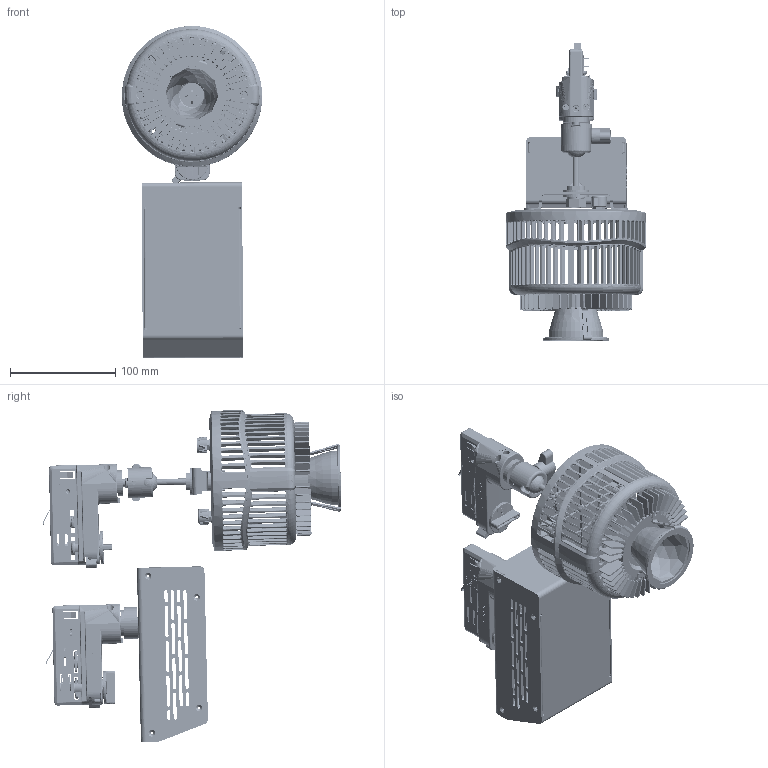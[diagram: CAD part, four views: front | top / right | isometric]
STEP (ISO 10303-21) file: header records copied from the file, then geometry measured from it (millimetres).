
FILE_DESCRIPTION (( 'STEP AP214' ), '1' );
FILE_NAME ('W500N-TOX-PS.STEP', '2024-02-01T23:00:08', ( '' ), ( '' ), 'SwSTEP 2.0', 'SolidWorks 2022', '' );
FILE_SCHEMA (( 'AUTOMOTIVE_DESIGN' ));
Length unit declared in the file: millimetre
Products named in the file (39): UL010___; 5022405-XXX_A1_Wing Knob Screws, M6xL8.0mm_-001; 5021416_A1_Hex Nut, M10xP1.5, T8 SUS___; 5022770-XXX_A1_RETAINING COLLAR M10P1.0 FOR ONETRACK POWER BOX OD30x29.8mm___; 5120540-XXX_A1_Rear Panel, OD=133, T=13.65mm, W-Series_5120531-001 W500; 5020893-2010525020_ _Flat Washer, M10, ID10.5 OD25.0, T2 SUS 304___; UL003___; 5022424-XXX_A2_250W Power Box Cover (TG&TEX-PS&CLP&TJ TYPE), 165x92x62.5(H)mm___; 5021926-XXX_A2_KNOB, 18T, OD=14.9, ID=6, L=10MM_C1; 5060069-XXX_A2_W series Reflector-35, OD=62, H=45mm___; 5022445-XXX_A1_DC Plug for W Series, D=12mm_-002(Black); 5022452-003_A3_Reflector Sink Holder, D108x14.35(H)mm (-004 is White)_-003(Black); 5020757-002_A2_VR Washer, Kessil A360 Aquarium Light___; 5020757-001_A1_VR Nut, Kessil A360 Aquarium Light___; 5120522-XXX_A4_Assembly BOM, W360&W500 Light Mounting Type_TG; 5022771-XXX_A1_RETAINING M10P1.5 FOR ONETRACK LIGHT SIDE OD25x19.8mm___; 5022398-XXX_A1_Plug for W Series, 19x10x9.4mm_-002(Black); 5120519-XXX_A3_Assembly BOM, Kessil W500 Power Box_TON(US)-PS; 5120539-XXX_A1_Housing, OD=133, ID=121, T=78.1mm, For Reflector, Without Logo___; 5022427-XXX_A4_250W Power Box FRAME (TG&TEX&CLP TYPE), 165x95x64mm___; C007___; 5120530-XXX_A1_Assembly BOM, W500 Reflector Type_Reflector - 55D-BD; Track Adapter-120V 2Circuits (??)___; 5020897-2010216520_ _Helical Spring Washer Customized___; UL006___; 5022693-XXX_A1_Bracket, 98.85x25x17.5, T=2.5mm___; 62280-1343006_ _SCREW, PAN HEAD TROX W-THD LOCK, SUS-410, BLACK, M3xL6mm___; 5010177-XXX_A2_Assembly BOM, Kessil W500_55D-BD-[TEX]; 62282-5014005_ _Standard Types of Metric Set Screws, M4xL5, Black___; 5022453-XXX_A1_35D Sink Holder B, 71.2x62.2x31.1(H)mm___; UL008___; UL004___; 5022708-XXX_A2_Ball Joint Axis, L=65.8mm___; UL002___; 5022431-XXX_A1_Ball Joint Part A, L=23.7mm___; W500N-TOX-PS; 5047592-XXX_A2_A.A.G. STUCCHI-Adapter for ONE Track Series(6 Conductors), for US___; 5022189_A1_Plate, OD=48, ID=23, T=2.0mm___; 5120529-XXX_A1_Assembly BOM, W500 Light Engine_Finish
Assembly tree (43 placements, depth 5):
  W500N-TOX-PS
    5120519-XXX_A3_Assembly BOM, Kessil W500 Power Box_TON(US)-PS
      5022427-XXX_A4_250W Power Box FRAME (TG&TEX&CLP TYPE), 165x95x64mm___
      5022770-XXX_A1_RETAINING COLLAR M10P1.0 FOR ONETRACK POWER BOX OD30x29.8mm___
      5047592-XXX_A2_A.A.G. STUCCHI-Adapter for ONE Track Series(6 Conductors), for US___
      5022424-XXX_A2_250W Power Box Cover (TG&TEX-PS&CLP&TJ TYPE), 165x92x62.5(H)mm___
    5010177-XXX_A2_Assembly BOM, Kessil W500_55D-BD-[TEX]
      5120529-XXX_A1_Assembly BOM, W500 Light Engine_Finish
        5120540-XXX_A1_Rear Panel, OD=133, T=13.65mm, W-Series_5120531-001 W500
        5022398-XXX_A1_Plug for W Series, 19x10x9.4mm_-002(Black)
        5022445-XXX_A1_DC Plug for W Series, D=12mm_-002(Black)
        5020757-002_A2_VR Washer, Kessil A360 Aquarium Light___  x2
        5020757-001_A1_VR Nut, Kessil A360 Aquarium Light___  x2
        5021926-XXX_A2_KNOB, 18T, OD=14.9, ID=6, L=10MM_C1  x2
      5120530-XXX_A1_Assembly BOM, W500 Reflector Type_Reflector - 55D-BD
        5120539-XXX_A1_Housing, OD=133, ID=121, T=78.1mm, For Reflector, Without Logo___
        5022189_A1_Plate, OD=48, ID=23, T=2.0mm___
        62280-1343006_ _SCREW, PAN HEAD TROX W-THD LOCK, SUS-410, BLACK, M3xL6mm___  x2
        5022452-003_A3_Reflector Sink Holder, D108x14.35(H)mm (-004 is White)_-003(Black)
        5022453-XXX_A1_35D Sink Holder B, 71.2x62.2x31.1(H)mm___
        5060069-XXX_A2_W series Reflector-35, OD=62, H=45mm___
      5120522-XXX_A4_Assembly BOM, W360&W500 Light Mounting Type_TG
        5022431-XXX_A1_Ball Joint Part A, L=23.7mm___
        5022708-XXX_A2_Ball Joint Axis, L=65.8mm___
        62282-5014005_ _Standard Types of Metric Set Screws, M4xL5, Black___
        5022405-XXX_A1_Wing Knob Screws, M6xL8.0mm_-001
        5022693-XXX_A1_Bracket, 98.85x25x17.5, T=2.5mm___
        5022771-XXX_A1_RETAINING M10P1.5 FOR ONETRACK LIGHT SIDE OD25x19.8mm___
        Track Adapter-120V 2Circuits (??)___
          UL002___
          UL003___
          UL008___
          UL010___
          UL006___
          C007___
          UL004___
        5020893-2010525020_ _Flat Washer, M10, ID10.5 OD25.0, T2 SUS 304___  x2
        5020897-2010216520_ _Helical Spring Washer Customized___
        5021416_A1_Hex Nut, M10xP1.5, T8 SUS___
Bounding box: 133 x 283.33 x 314.84 mm (x, y, z)
Volume: 319138.8 mm3; surface area: 461078.2 mm2
Topology: 35 solids, 72 shells, 16919 faces, 46387 edges, 29556 vertices
Faces by surface type: plane 8336, cylinder 4649, bspline 2743, cone 731, torus 444, sphere 16
Entity records: 837945 total; most frequent: CARTESIAN_POINT 395884, ORIENTED_EDGE 89235, DIRECTION 67148, EDGE_CURVE 44972, VERTEX_POINT 28698, LINE 23708, VECTOR 23708, AXIS2_PLACEMENT_3D 21720
